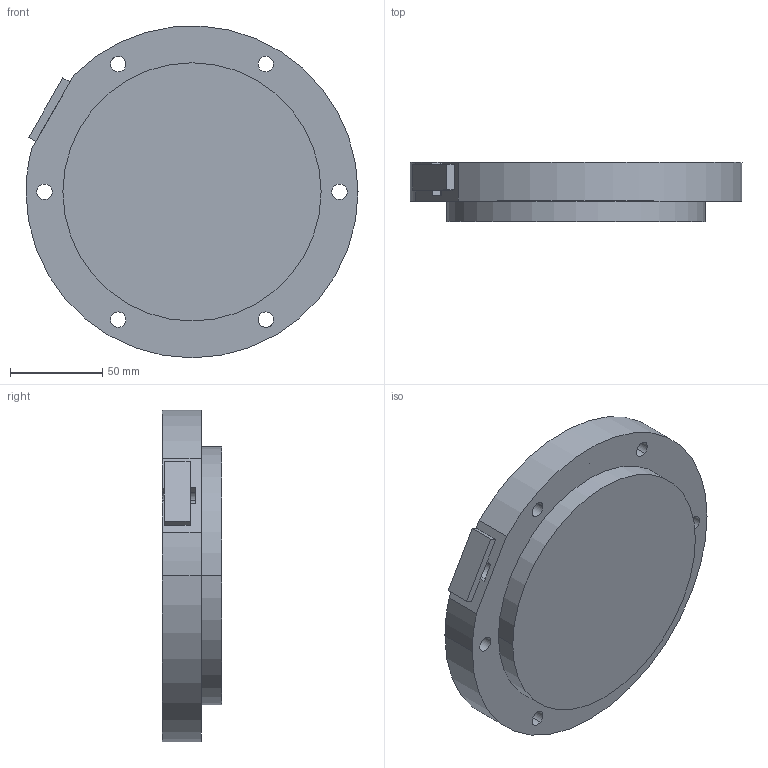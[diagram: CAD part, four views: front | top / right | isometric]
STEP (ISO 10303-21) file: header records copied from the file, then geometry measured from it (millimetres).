
FILE_DESCRIPTION(('CATIA V5 STEP Exchange'),'2;1');
FILE_NAME('Z:\ROBOT\CATIA06\products\SRA\SRA240L-01\Assy\FTP\catia\SRA240L-01_J6.stp','2023-04-03T10:18:11+00:00',('none'),('none'),'CATIA Version 5-6 Release 2016 SP3','CATIA V5 STEP AP203','none');
FILE_SCHEMA(('CONFIG_CONTROL_DESIGN'));
Length unit declared in the file: millimetre
Products named in the file (1): SRA240L-01_J6
Bounding box: 180 x 32 x 179.87 mm (x, y, z)
Volume: 626759.1 mm3; surface area: 82211.4 mm2
Topology: 1 solids, 3 shells, 109 faces, 325 edges, 205 vertices
Faces by surface type: cylinder 57, cone 36, plane 16
Entity records: 3743 total; most frequent: CARTESIAN_POINT 991, ORIENTED_EDGE 590, DIRECTION 467, EDGE_CURVE 295, AXIS2_PLACEMENT_3D 235, VERTEX_POINT 205, EDGE_LOOP 136, CIRCLE 126
